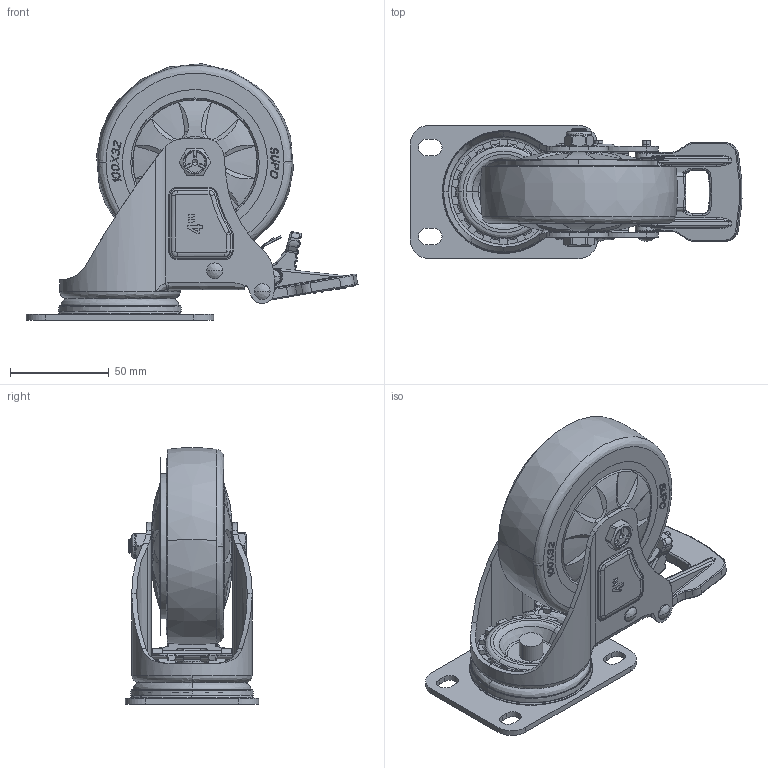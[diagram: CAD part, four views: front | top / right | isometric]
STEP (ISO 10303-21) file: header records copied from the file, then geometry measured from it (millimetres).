
FILE_DESCRIPTION (( 'STEP AP214' ), '1' );
FILE_NAME ('Z03S-01D-100-432-A01.STEP', '2025-10-01T09:31:45', ( '' ), ( '' ), 'SwSTEP 2.0', 'SolidWorks 2022', '' );
FILE_SCHEMA (( 'AUTOMOTIVE_DESIGN' ));
Length unit declared in the file: millimetre
Products named in the file (1): Z03S-01D-100-432-A01
Bounding box: 167.99 x 67.5 x 129.79 mm (x, y, z)
Volume: 292668.9 mm3; surface area: 183702.3 mm2
Topology: 78 solids, 78 shells, 3211 faces, 8867 edges, 5581 vertices
Faces by surface type: plane 1320, bspline 906, cylinder 856, cone 129
Entity records: 172151 total; most frequent: CARTESIAN_POINT 63804, ORIENTED_EDGE 17116, DIRECTION 12186, EDGE_CURVE 8558, VERTEX_POINT 5581, VECTOR 4150, LINE 4150, AXIS2_PLACEMENT_3D 4018
